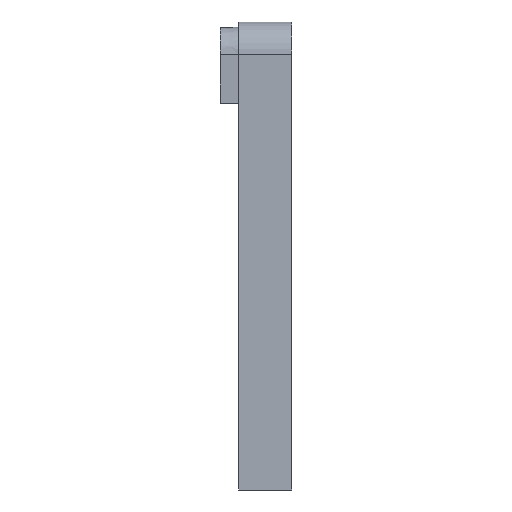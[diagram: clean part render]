
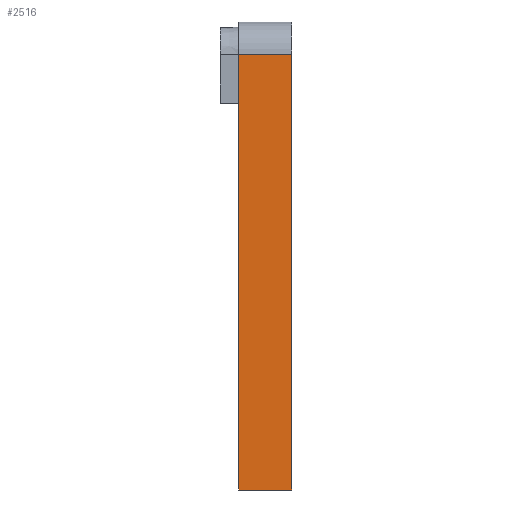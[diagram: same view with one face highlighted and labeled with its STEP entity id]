
A CAD part, left-side view. The second image highlights one B-rep face of the part: STEP entity #2516.
In plain terms, the highlighted planar face has unit normal (-1, 0, 0).
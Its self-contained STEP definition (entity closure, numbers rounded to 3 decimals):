
#95 = EDGE_CURVE ( 'NONE', #2326, #827, #3801, .T. ) ;
#227 = VECTOR ( 'NONE', #3203, 1000. ) ;
#229 = ORIENTED_EDGE ( 'NONE', *, *, #1537, .F. ) ;
#241 = CARTESIAN_POINT ( 'NONE',  ( -217., 250., 0.5 ) ) ;
#285 = EDGE_CURVE ( 'NONE', #827, #1917, #304, .T. ) ;
#304 = LINE ( 'NONE', #1515, #2369 ) ;
#377 = CARTESIAN_POINT ( 'NONE',  ( -217., 227., 188. ) ) ;
#406 = CARTESIAN_POINT ( 'NONE',  ( -217., 253., 188. ) ) ;
#729 = LINE ( 'NONE', #2514, #2129 ) ;
#742 = PLANE ( 'NONE',  #2133 ) ;
#827 = VERTEX_POINT ( 'NONE', #241 ) ;
#1286 = DIRECTION ( 'NONE',  ( 0., 0., -1. ) ) ;
#1457 = DIRECTION ( 'NONE',  ( 0., -1., 0. ) ) ;
#1515 = CARTESIAN_POINT ( 'NONE',  ( -217., 250., 0.5 ) ) ;
#1537 = EDGE_CURVE ( 'NONE', #2114, #2326, #729, .T. ) ;
#1614 = DIRECTION ( 'NONE',  ( 0., 1., 0. ) ) ;
#1643 = VECTOR ( 'NONE', #1457, 1000. ) ;
#1671 = LINE ( 'NONE', #1746, #1643 ) ;
#1746 = CARTESIAN_POINT ( 'NONE',  ( -217., 253., 188. ) ) ;
#1780 = ORIENTED_EDGE ( 'NONE', *, *, #3089, .F. ) ;
#1917 = VERTEX_POINT ( 'NONE', #3813 ) ;
#2114 = VERTEX_POINT ( 'NONE', #377 ) ;
#2129 = VECTOR ( 'NONE', #1286, 1000. ) ;
#2133 = AXIS2_PLACEMENT_3D ( 'NONE', #406, #3113, #1614 ) ;
#2222 = EDGE_LOOP ( 'NONE', ( #229, #1780, #2784, #3497 ) ) ;
#2326 = VERTEX_POINT ( 'NONE', #2649 ) ;
#2369 = VECTOR ( 'NONE', #3610, 1000. ) ;
#2514 = CARTESIAN_POINT ( 'NONE',  ( -217., 227., 188. ) ) ;
#2516 = ADVANCED_FACE ( 'NONE', ( #3660 ), #742, .F. ) ;
#2649 = CARTESIAN_POINT ( 'NONE',  ( -217., 227., 0.5 ) ) ;
#2784 = ORIENTED_EDGE ( 'NONE', *, *, #285, .F. ) ;
#2843 = CARTESIAN_POINT ( 'NONE',  ( -217., 253., 0.5 ) ) ;
#3089 = EDGE_CURVE ( 'NONE', #1917, #2114, #1671, .T. ) ;
#3113 = DIRECTION ( 'NONE',  ( 1., 0., 0. ) ) ;
#3203 = DIRECTION ( 'NONE',  ( 0., 1., 0. ) ) ;
#3497 = ORIENTED_EDGE ( 'NONE', *, *, #95, .F. ) ;
#3610 = DIRECTION ( 'NONE',  ( 0., 0., 1. ) ) ;
#3660 = FACE_OUTER_BOUND ( 'NONE', #2222, .T. ) ;
#3801 = LINE ( 'NONE', #2843, #227 ) ;
#3813 = CARTESIAN_POINT ( 'NONE',  ( -217., 250., 188. ) ) ;
